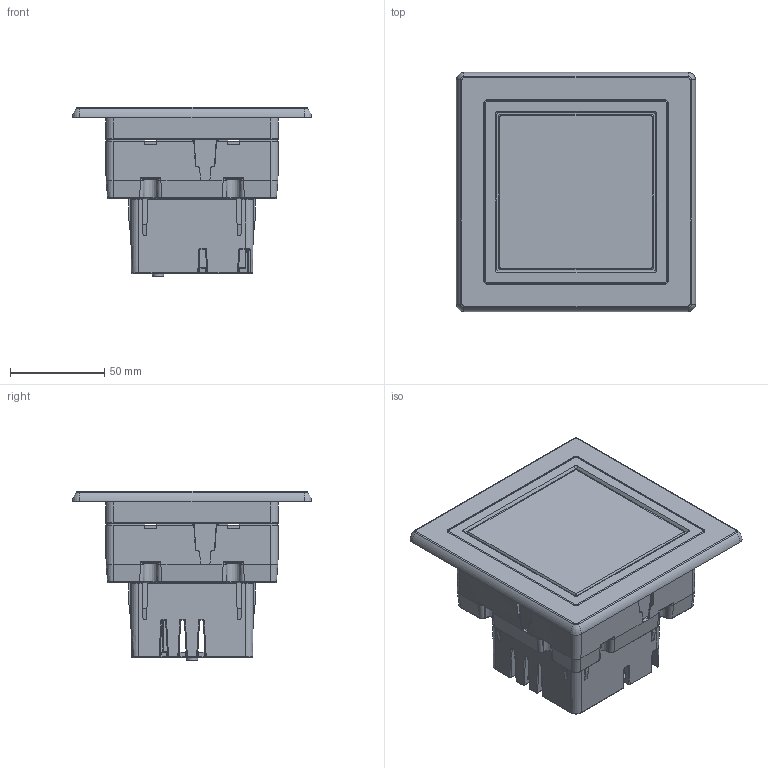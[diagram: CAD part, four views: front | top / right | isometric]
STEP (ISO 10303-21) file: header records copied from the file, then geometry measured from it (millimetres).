
FILE_DESCRIPTION(/* description */ (''),/* implementation_level */ '2;1');
FILE_NAME(/* name */ '\\deif.com\files\dok_dat\00arbdir\01_Customer files created by request\XL\XL96\XL96_asm_front+rear mount_20220913.stp',/* time_stamp */ '2022-09-13T14:36:33+02:00',/* author */ ('JDI'),/* organization */ (''),/* preprocessor_version */ 'ST-DEVELOPER v18.1',/* originating_system */ 'Autodesk Inventor 2022',/* authorisation */ '');
FILE_SCHEMA (('AUTOMOTIVE_DESIGN { 1 0 10303 214 3 1 1 }'));
Products named in the file (1): XL96_asm_front+rear mount_20091217_Simplify_1
Bounding box: 127 x 127 x 89.75 mm (x, y, z)
Volume: 153816.8 mm3; surface area: 118577.3 mm2
Topology: 1 solids, 1 shells, 3029 faces, 7702 edges, 4513 vertices
Faces by surface type: cylinder 1206, plane 670, bspline 585, torus 246, cone 192, sphere 130
Entity records: 144216 total; most frequent: CARTESIAN_POINT 71690, ORIENTED_EDGE 15142, DIRECTION 14191, EDGE_CURVE 7571, AXIS2_PLACEMENT_3D 5492, VERTEX_POINT 4513, LINE 3207, VECTOR 3207
